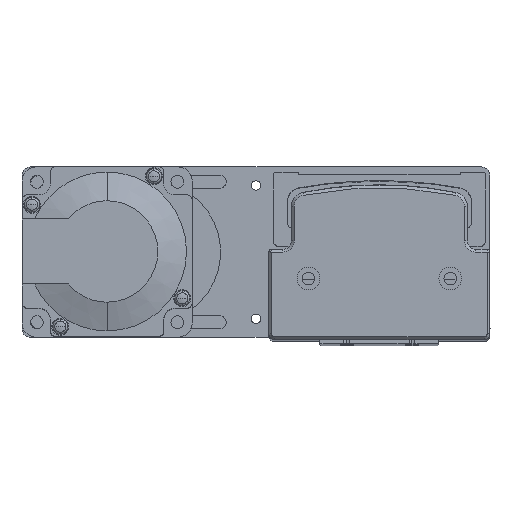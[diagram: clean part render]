
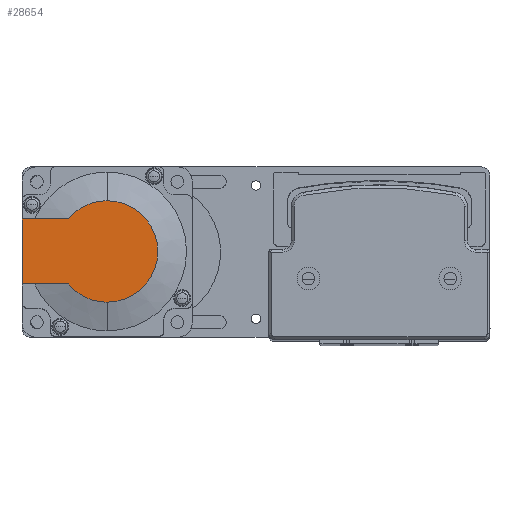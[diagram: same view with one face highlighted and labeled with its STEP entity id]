
A CAD part, top view. The second image highlights one B-rep face of the part: STEP entity #28654.
In plain terms, the highlighted planar face has unit normal (0, 0, 1) as drawn and (-1, 0, 0) by its records, which use the part's own axes.
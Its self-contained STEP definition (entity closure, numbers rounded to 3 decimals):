
#441 = CARTESIAN_POINT ( 'NONE',  ( -118.5, -8.941, 0. ) ) ;
#1522 = CARTESIAN_POINT ( 'NONE',  ( -118.5, 13.735, 11.45 ) ) ;
#1933 = CARTESIAN_POINT ( 'NONE',  ( -118.5, 0., 0. ) ) ;
#2291 = VECTOR ( 'NONE', #4132, 1000. ) ;
#3809 = DIRECTION ( 'NONE',  ( 0., 0., 1. ) ) ;
#3939 = AXIS2_PLACEMENT_3D ( 'NONE', #441, #23551, #3809 ) ;
#4132 = DIRECTION ( 'NONE',  ( 0., -1., 0. ) ) ;
#5033 = CARTESIAN_POINT ( 'NONE',  ( -118.5, 30., 25. ) ) ;
#5294 = DIRECTION ( 'NONE',  ( 0., 0., -1. ) ) ;
#5302 = CARTESIAN_POINT ( 'NONE',  ( -118.5, 13.735, -11.45 ) ) ;
#5394 = CARTESIAN_POINT ( 'NONE',  ( -118.5, 0., 0. ) ) ;
#5996 = AXIS2_PLACEMENT_3D ( 'NONE', #15711, #38567, #19065 ) ;
#6245 = CARTESIAN_POINT ( 'NONE',  ( -118.5, 0., 11.45 ) ) ;
#6691 = ORIENTED_EDGE ( 'NONE', *, *, #8356, .T. ) ;
#8097 = EDGE_CURVE ( 'NONE', #39466, #21650, #37139, .T. ) ;
#8356 = EDGE_CURVE ( 'NONE', #41418, #13112, #13656, .T. ) ;
#8712 = DIRECTION ( 'NONE',  ( 0., 0., -1. ) ) ;
#8729 = CARTESIAN_POINT ( 'NONE',  ( -118.5, 30., -11.45 ) ) ;
#9068 = VECTOR ( 'NONE', #31262, 1000. ) ;
#10290 = VERTEX_POINT ( 'NONE', #23286 ) ;
#11312 = ORIENTED_EDGE ( 'NONE', *, *, #41087, .F. ) ;
#13112 = VERTEX_POINT ( 'NONE', #40676 ) ;
#13208 = LINE ( 'NONE', #5033, #9068 ) ;
#13530 = CARTESIAN_POINT ( 'NONE',  ( -118.5, 0., -17.881 ) ) ;
#13656 = CIRCLE ( 'NONE', #33092, 17.881 ) ;
#13915 = AXIS2_PLACEMENT_3D ( 'NONE', #5394, #28370, #8712 ) ;
#15578 = VECTOR ( 'NONE', #35748, 1000. ) ;
#15711 = CARTESIAN_POINT ( 'NONE',  ( -118.5, 0., 0. ) ) ;
#17116 = CARTESIAN_POINT ( 'NONE',  ( -118.5, -8.941, -11.45 ) ) ;
#18194 = CIRCLE ( 'NONE', #13915, 17.881 ) ;
#18575 = ORIENTED_EDGE ( 'NONE', *, *, #8097, .T. ) ;
#19065 = DIRECTION ( 'NONE',  ( 0., 0., -1. ) ) ;
#20449 = EDGE_CURVE ( 'NONE', #13112, #25336, #18194, .T. ) ;
#20616 = EDGE_CURVE ( 'NONE', #10290, #25336, #24270, .T. ) ;
#21650 = VERTEX_POINT ( 'NONE', #5302 ) ;
#22117 = ORIENTED_EDGE ( 'NONE', *, *, #20616, .F. ) ;
#23286 = CARTESIAN_POINT ( 'NONE',  ( -118.5, 30., 11.45 ) ) ;
#23551 = DIRECTION ( 'NONE',  ( -1., 0., 0. ) ) ;
#24270 = LINE ( 'NONE', #6245, #15578 ) ;
#24960 = DIRECTION ( 'NONE',  ( -1., 0., 0. ) ) ;
#25336 = VERTEX_POINT ( 'NONE', #1522 ) ;
#28337 = EDGE_LOOP ( 'NONE', ( #18575, #35532, #6691, #35538, #22117, #11312 ) ) ;
#28370 = DIRECTION ( 'NONE',  ( -1., 0., 0. ) ) ;
#28371 = FACE_OUTER_BOUND ( 'NONE', #28337, .T. ) ;
#28654 = ADVANCED_FACE ( 'NONE', ( #28371 ), #29941, .T. ) ;
#29941 = PLANE ( 'NONE',  #3939 ) ;
#31262 = DIRECTION ( 'NONE',  ( 0., 0., 1. ) ) ;
#33092 = AXIS2_PLACEMENT_3D ( 'NONE', #1933, #24960, #5294 ) ;
#34514 = CIRCLE ( 'NONE', #5996, 17.881 ) ;
#35532 = ORIENTED_EDGE ( 'NONE', *, *, #42438, .T. ) ;
#35538 = ORIENTED_EDGE ( 'NONE', *, *, #20449, .T. ) ;
#35748 = DIRECTION ( 'NONE',  ( 0., -1., 0. ) ) ;
#37139 = LINE ( 'NONE', #17116, #2291 ) ;
#38567 = DIRECTION ( 'NONE',  ( -1., 0., 0. ) ) ;
#39466 = VERTEX_POINT ( 'NONE', #8729 ) ;
#40676 = CARTESIAN_POINT ( 'NONE',  ( -118.5, 0., 17.881 ) ) ;
#41087 = EDGE_CURVE ( 'NONE', #39466, #10290, #13208, .T. ) ;
#41418 = VERTEX_POINT ( 'NONE', #13530 ) ;
#42438 = EDGE_CURVE ( 'NONE', #21650, #41418, #34514, .T. ) ;
